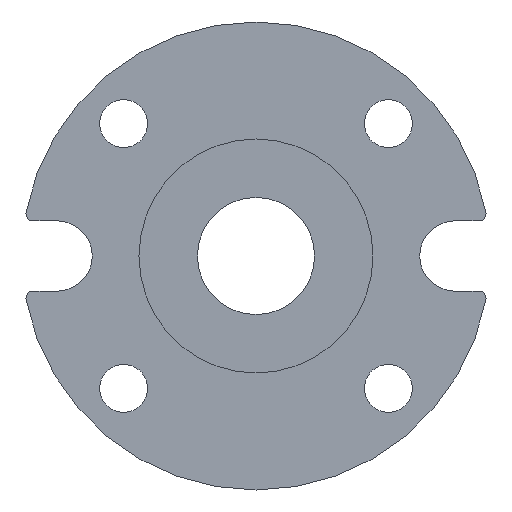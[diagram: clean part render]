
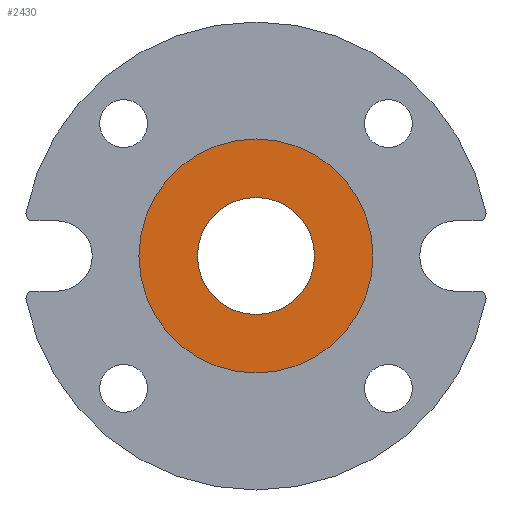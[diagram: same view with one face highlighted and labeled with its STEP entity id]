
A CAD part, front view. The second image highlights one B-rep face of the part: STEP entity #2430.
In plain terms, the highlighted planar face has unit normal (0, -1, 0).
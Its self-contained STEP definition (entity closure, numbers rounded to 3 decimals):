
#17 = AXIS2_PLACEMENT_3D ( 'NONE', #2176, #1380, #1574 ) ;
#138 = DIRECTION ( 'NONE',  ( 0., 0., -1. ) ) ;
#145 = AXIS2_PLACEMENT_3D ( 'NONE', #1409, #2028, #138 ) ;
#150 = DIRECTION ( 'NONE',  ( 0., 0., -1. ) ) ;
#192 = DIRECTION ( 'NONE',  ( 0., -1., 0. ) ) ;
#351 = EDGE_LOOP ( 'NONE', ( #650, #1707 ) ) ;
#352 = CARTESIAN_POINT ( 'NONE',  ( 0., -4., 0. ) ) ;
#398 = CARTESIAN_POINT ( 'NONE',  ( 0., -4., 2.5 ) ) ;
#576 = AXIS2_PLACEMENT_3D ( 'NONE', #595, #2498, #999 ) ;
#595 = CARTESIAN_POINT ( 'NONE',  ( 0., -4., 0. ) ) ;
#625 = DIRECTION ( 'NONE',  ( 0., 0., -1. ) ) ;
#650 = ORIENTED_EDGE ( 'NONE', *, *, #1630, .T. ) ;
#831 = VERTEX_POINT ( 'NONE', #398 ) ;
#977 = CIRCLE ( 'NONE', #145, 5. ) ;
#999 = DIRECTION ( 'NONE',  ( 0., 0., 1. ) ) ;
#1049 = EDGE_CURVE ( 'NONE', #831, #2195, #2392, .T. ) ;
#1129 = ORIENTED_EDGE ( 'NONE', *, *, #1363, .T. ) ;
#1363 = EDGE_CURVE ( 'NONE', #2195, #831, #1761, .T. ) ;
#1377 = AXIS2_PLACEMENT_3D ( 'NONE', #352, #2485, #150 ) ;
#1380 = DIRECTION ( 'NONE',  ( 0., 1., 0. ) ) ;
#1390 = VERTEX_POINT ( 'NONE', #2648 ) ;
#1391 = PLANE ( 'NONE',  #1377 ) ;
#1409 = CARTESIAN_POINT ( 'NONE',  ( 0., -4., 0. ) ) ;
#1515 = VERTEX_POINT ( 'NONE', #1860 ) ;
#1574 = DIRECTION ( 'NONE',  ( 0., 0., 1. ) ) ;
#1630 = EDGE_CURVE ( 'NONE', #1515, #1390, #977, .T. ) ;
#1634 = FACE_OUTER_BOUND ( 'NONE', #351, .T. ) ;
#1701 = CARTESIAN_POINT ( 'NONE',  ( 0., -4., -2.5 ) ) ;
#1707 = ORIENTED_EDGE ( 'NONE', *, *, #2602, .T. ) ;
#1761 = CIRCLE ( 'NONE', #17, 2.5 ) ;
#1860 = CARTESIAN_POINT ( 'NONE',  ( 0., -4., 5. ) ) ;
#1912 = CIRCLE ( 'NONE', #2301, 5. ) ;
#1937 = EDGE_LOOP ( 'NONE', ( #2620, #1129 ) ) ;
#2007 = FACE_BOUND ( 'NONE', #1937, .T. ) ;
#2028 = DIRECTION ( 'NONE',  ( 0., -1., 0. ) ) ;
#2176 = CARTESIAN_POINT ( 'NONE',  ( 0., -4., 0. ) ) ;
#2195 = VERTEX_POINT ( 'NONE', #1701 ) ;
#2286 = CARTESIAN_POINT ( 'NONE',  ( 0., -4., 0. ) ) ;
#2301 = AXIS2_PLACEMENT_3D ( 'NONE', #2286, #192, #625 ) ;
#2392 = CIRCLE ( 'NONE', #576, 2.5 ) ;
#2430 = ADVANCED_FACE ( 'NONE', ( #2007, #1634 ), #1391, .T. ) ;
#2485 = DIRECTION ( 'NONE',  ( 0., -1., 0. ) ) ;
#2498 = DIRECTION ( 'NONE',  ( 0., 1., 0. ) ) ;
#2602 = EDGE_CURVE ( 'NONE', #1390, #1515, #1912, .T. ) ;
#2620 = ORIENTED_EDGE ( 'NONE', *, *, #1049, .T. ) ;
#2648 = CARTESIAN_POINT ( 'NONE',  ( 0., -4., -5. ) ) ;
